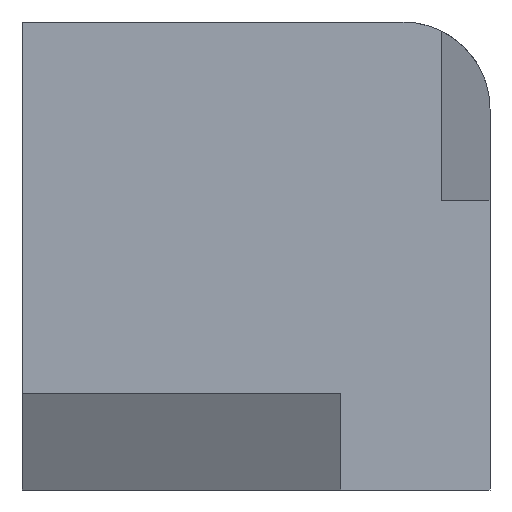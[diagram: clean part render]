
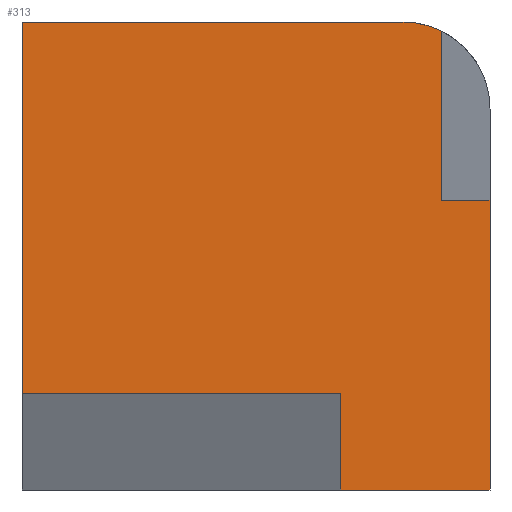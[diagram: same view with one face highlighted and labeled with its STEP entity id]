
A CAD part, left-side view. The second image highlights one B-rep face of the part: STEP entity #313.
In plain terms, the highlighted planar face has unit normal (-1, 0, 0).
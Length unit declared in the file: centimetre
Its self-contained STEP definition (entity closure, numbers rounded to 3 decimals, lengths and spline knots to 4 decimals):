
#4 = VERTEX_POINT ( 'NONE', #448 ) ;
#24 = VECTOR ( 'NONE', #482, 100. ) ;
#59 = CARTESIAN_POINT ( 'NONE',  ( 0., 0., 618.6306 ) ) ;
#74 = VERTEX_POINT ( 'NONE', #331 ) ;
#79 = LINE ( 'NONE', #1195, #767 ) ;
#125 = ORIENTED_EDGE ( 'NONE', *, *, #684, .F. ) ;
#136 = EDGE_CURVE ( 'NONE', #1012, #74, #1218, .T. ) ;
#208 = EDGE_CURVE ( 'NONE', #215, #966, #513, .T. ) ;
#215 = VERTEX_POINT ( 'NONE', #608 ) ;
#247 = CARTESIAN_POINT ( 'NONE',  ( 0., 1000., 1000. ) ) ;
#279 = CARTESIAN_POINT ( 'NONE',  ( 0., 103.2869, 618.6306 ) ) ;
#292 = LINE ( 'NONE', #1098, #560 ) ;
#305 = CARTESIAN_POINT ( 'NONE',  ( 0., 185.914, 814.086 ) ) ;
#313 = ADVANCED_FACE ( 'NONE', ( #1286 ), #635, .F. ) ;
#314 = DIRECTION ( 'NONE',  ( 0., 0., -1. ) ) ;
#331 = CARTESIAN_POINT ( 'NONE',  ( 0., 1000., 207.0358 ) ) ;
#380 = VECTOR ( 'NONE', #644, 100. ) ;
#398 = DIRECTION ( 'NONE',  ( 0., 0., -1. ) ) ;
#421 = DIRECTION ( 'NONE',  ( 0., 0., 1. ) ) ;
#431 = VECTOR ( 'NONE', #687, 100. ) ;
#439 = LINE ( 'NONE', #855, #380 ) ;
#448 = CARTESIAN_POINT ( 'NONE',  ( 0., 319.115, 0. ) ) ;
#482 = DIRECTION ( 'NONE',  ( 0., -1., 0. ) ) ;
#497 = LINE ( 'NONE', #1226, #726 ) ;
#513 = CIRCLE ( 'NONE', #1162, 185.914 ) ;
#515 = ORIENTED_EDGE ( 'NONE', *, *, #1272, .F. ) ;
#528 = EDGE_CURVE ( 'NONE', #1104, #215, #998, .T. ) ;
#535 = CARTESIAN_POINT ( 'NONE',  ( 0., 103.2869, 618.6306 ) ) ;
#545 = DIRECTION ( 'NONE',  ( 0., 0., -1. ) ) ;
#560 = VECTOR ( 'NONE', #421, 100. ) ;
#575 = EDGE_CURVE ( 'NONE', #1191, #805, #497, .T. ) ;
#608 = CARTESIAN_POINT ( 'NONE',  ( 0., 103.2869, 980.6296 ) ) ;
#635 = PLANE ( 'NONE',  #1003 ) ;
#644 = DIRECTION ( 'NONE',  ( 0., 1., 0. ) ) ;
#646 = EDGE_CURVE ( 'NONE', #1012, #966, #893, .T. ) ;
#671 = DIRECTION ( 'NONE',  ( 0., -1., 0. ) ) ;
#684 = EDGE_CURVE ( 'NONE', #1104, #1191, #79, .T. ) ;
#687 = DIRECTION ( 'NONE',  ( 0., 0., 1. ) ) ;
#709 = ORIENTED_EDGE ( 'NONE', *, *, #575, .F. ) ;
#715 = VERTEX_POINT ( 'NONE', #1323 ) ;
#726 = VECTOR ( 'NONE', #398, 100. ) ;
#747 = DIRECTION ( 'NONE',  ( 1., 0., 0. ) ) ;
#762 = CARTESIAN_POINT ( 'NONE',  ( 0., 1000., 1000. ) ) ;
#767 = VECTOR ( 'NONE', #671, 100. ) ;
#771 = ORIENTED_EDGE ( 'NONE', *, *, #1277, .T. ) ;
#782 = ORIENTED_EDGE ( 'NONE', *, *, #528, .T. ) ;
#786 = CARTESIAN_POINT ( 'NONE',  ( 0., 1000., 1000. ) ) ;
#805 = VERTEX_POINT ( 'NONE', #810 ) ;
#810 = CARTESIAN_POINT ( 'NONE',  ( 0., 0., 0. ) ) ;
#831 = DIRECTION ( 'NONE',  ( 0., -1., 0. ) ) ;
#842 = CARTESIAN_POINT ( 'NONE',  ( 0., 1000., 1000. ) ) ;
#855 = CARTESIAN_POINT ( 'NONE',  ( 0., 319.115, 207.0358 ) ) ;
#887 = ORIENTED_EDGE ( 'NONE', *, *, #980, .F. ) ;
#893 = LINE ( 'NONE', #762, #24 ) ;
#966 = VERTEX_POINT ( 'NONE', #1151 ) ;
#980 = EDGE_CURVE ( 'NONE', #715, #74, #439, .T. ) ;
#998 = LINE ( 'NONE', #279, #431 ) ;
#1003 = AXIS2_PLACEMENT_3D ( 'NONE', #247, #747, #545 ) ;
#1006 = LINE ( 'NONE', #1133, #1057 ) ;
#1012 = VERTEX_POINT ( 'NONE', #842 ) ;
#1046 = ORIENTED_EDGE ( 'NONE', *, *, #136, .T. ) ;
#1057 = VECTOR ( 'NONE', #831, 100. ) ;
#1089 = VECTOR ( 'NONE', #1094, 100. ) ;
#1094 = DIRECTION ( 'NONE',  ( 0., 0., -1. ) ) ;
#1098 = CARTESIAN_POINT ( 'NONE',  ( 0., 319.115, 0. ) ) ;
#1104 = VERTEX_POINT ( 'NONE', #535 ) ;
#1127 = DIRECTION ( 'NONE',  ( -1., 0., 0. ) ) ;
#1133 = CARTESIAN_POINT ( 'NONE',  ( 0., 1000., 0. ) ) ;
#1147 = EDGE_LOOP ( 'NONE', ( #1046, #887, #515, #771, #709, #125, #782, #1213, #1160 ) ) ;
#1151 = CARTESIAN_POINT ( 'NONE',  ( 0., 185.914, 1000. ) ) ;
#1160 = ORIENTED_EDGE ( 'NONE', *, *, #646, .F. ) ;
#1162 = AXIS2_PLACEMENT_3D ( 'NONE', #305, #1127, #314 ) ;
#1191 = VERTEX_POINT ( 'NONE', #59 ) ;
#1195 = CARTESIAN_POINT ( 'NONE',  ( 0., 0., 618.6306 ) ) ;
#1213 = ORIENTED_EDGE ( 'NONE', *, *, #208, .T. ) ;
#1218 = LINE ( 'NONE', #786, #1089 ) ;
#1226 = CARTESIAN_POINT ( 'NONE',  ( 0., 0., 1000. ) ) ;
#1272 = EDGE_CURVE ( 'NONE', #4, #715, #292, .T. ) ;
#1277 = EDGE_CURVE ( 'NONE', #4, #805, #1006, .T. ) ;
#1286 = FACE_OUTER_BOUND ( 'NONE', #1147, .T. ) ;
#1323 = CARTESIAN_POINT ( 'NONE',  ( 0., 319.115, 207.0358 ) ) ;
